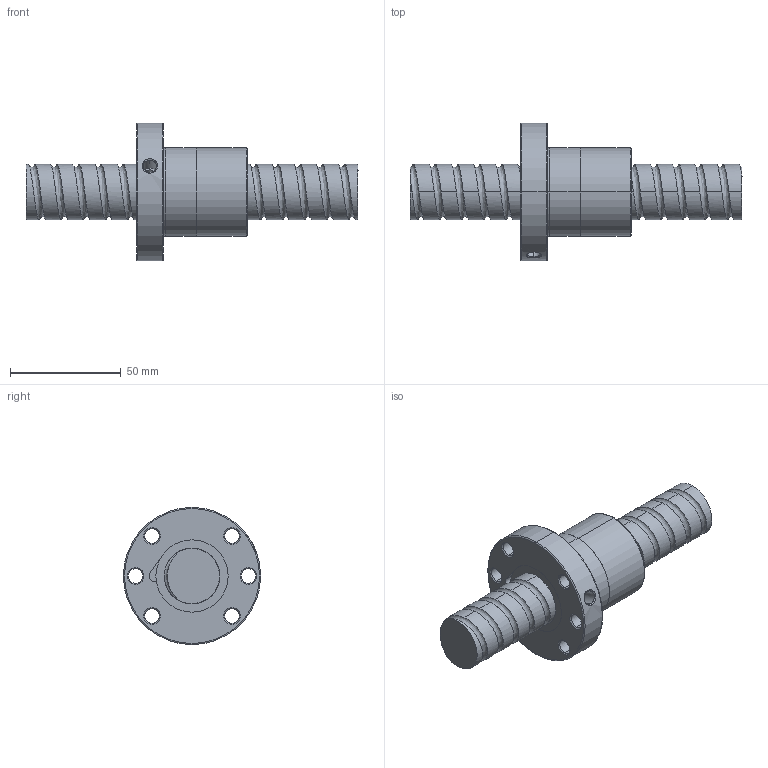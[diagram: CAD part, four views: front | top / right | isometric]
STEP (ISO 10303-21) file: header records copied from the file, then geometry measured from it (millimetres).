
FILE_DESCRIPTION (( 'STEP AP214' ), '1' );
FILE_NAME ('FSDC02510T3-B-A.STEP', '2010-06-25T11:30:32', ( 'XPAUTO' ), ( 'XPAUTO' ), 'SwSTEP 2.0', 'SolidWorks 2007', '' );
FILE_SCHEMA (( 'AUTOMOTIVE_DESIGN' ));
Length unit declared in the file: millimetre
Products named in the file (3): FSDC02510T3-B-A.sldasm-Part-1_預設; FSDC02510T3-B-A.sldasm-Part-2_預設; FSDC02510T3-B-A
Assembly tree (2 placements, depth 2):
  FSDC02510T3-B-A
    FSDC02510T3-B-A.sldasm-Part-2_預設
    FSDC02510T3-B-A.sldasm-Part-1_預設
Bounding box: 150 x 62 x 62 mm (x, y, z)
Volume: 125854.7 mm3; surface area: 31608 mm2
Topology: 2 solids, 2 shells, 122 faces, 304 edges, 191 vertices
Faces by surface type: cylinder 71, cone 24, plane 16, torus 6, bspline 5
Entity records: 25045 total; most frequent: CARTESIAN_POINT 22107, ORIENTED_EDGE 608, DIRECTION 582, EDGE_CURVE 304, AXIS2_PLACEMENT_3D 240, VERTEX_POINT 191, EDGE_LOOP 143, FACE_OUTER_BOUND 122
